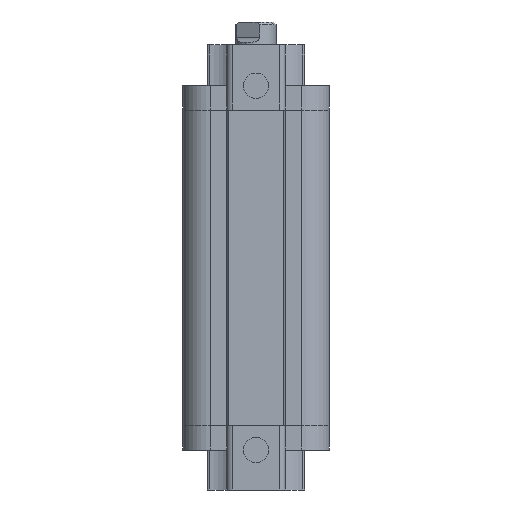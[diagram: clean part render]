
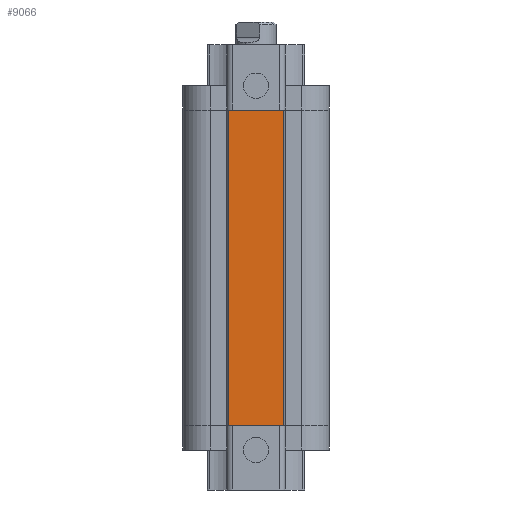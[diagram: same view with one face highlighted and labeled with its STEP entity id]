
A CAD part, front view. The second image highlights one B-rep face of the part: STEP entity #9066.
In plain terms, the highlighted planar face has unit normal (0, -1, 0).
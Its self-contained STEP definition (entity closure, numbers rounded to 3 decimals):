
#149 = LINE ( 'NONE', #6399, #8570 ) ;
#494 = ORIENTED_EDGE ( 'NONE', *, *, #9790, .T. ) ;
#1086 = CARTESIAN_POINT ( 'NONE',  ( 5.5, -15.5, 62.4 ) ) ;
#1727 = ORIENTED_EDGE ( 'NONE', *, *, #9614, .F. ) ;
#1787 = LINE ( 'NONE', #7826, #10180 ) ;
#1832 = VECTOR ( 'NONE', #1900, 1000. ) ;
#1875 = CARTESIAN_POINT ( 'NONE',  ( 5.5, -15.5, 31.2 ) ) ;
#1900 = DIRECTION ( 'NONE',  ( 0., 0., -1. ) ) ;
#2615 = EDGE_LOOP ( 'NONE', ( #8398, #5993, #1727, #494 ) ) ;
#2768 = CARTESIAN_POINT ( 'NONE',  ( -5.5, -15.5, 0. ) ) ;
#4136 = CARTESIAN_POINT ( 'NONE',  ( -5.5, -15.5, 0. ) ) ;
#4257 = PLANE ( 'NONE',  #10369 ) ;
#4259 = DIRECTION ( 'NONE',  ( 0., 1., 0. ) ) ;
#4279 = DIRECTION ( 'NONE',  ( 0., 0., 1. ) ) ;
#5368 = CARTESIAN_POINT ( 'NONE',  ( 5.5, -15.5, 0. ) ) ;
#5993 = ORIENTED_EDGE ( 'NONE', *, *, #9490, .F. ) ;
#6399 = CARTESIAN_POINT ( 'NONE',  ( 0., -15.5, 62.4 ) ) ;
#6411 = DIRECTION ( 'NONE',  ( 1., 0., 0. ) ) ;
#6815 = CARTESIAN_POINT ( 'NONE',  ( -5.5, -15.5, 31.2 ) ) ;
#6828 = DIRECTION ( 'NONE',  ( 0., 0., 1. ) ) ;
#7510 = VECTOR ( 'NONE', #6828, 1000. ) ;
#7765 = LINE ( 'NONE', #6815, #7510 ) ;
#7826 = CARTESIAN_POINT ( 'NONE',  ( 0., -15.5, 0. ) ) ;
#7832 = EDGE_CURVE ( 'NONE', #8532, #9298, #10763, .T. ) ;
#7834 = DIRECTION ( 'NONE',  ( 1., 0., 0. ) ) ;
#8045 = CARTESIAN_POINT ( 'NONE',  ( -5.5, -15.5, 62.4 ) ) ;
#8356 = VERTEX_POINT ( 'NONE', #2768 ) ;
#8398 = ORIENTED_EDGE ( 'NONE', *, *, #7832, .F. ) ;
#8532 = VERTEX_POINT ( 'NONE', #1086 ) ;
#8570 = VECTOR ( 'NONE', #6411, 1000. ) ;
#9066 = ADVANCED_FACE ( 'NONE', ( #10599 ), #4257, .F. ) ;
#9298 = VERTEX_POINT ( 'NONE', #5368 ) ;
#9490 = EDGE_CURVE ( 'NONE', #9819, #8532, #149, .T. ) ;
#9614 = EDGE_CURVE ( 'NONE', #8356, #9819, #7765, .T. ) ;
#9790 = EDGE_CURVE ( 'NONE', #8356, #9298, #1787, .T. ) ;
#9819 = VERTEX_POINT ( 'NONE', #8045 ) ;
#10180 = VECTOR ( 'NONE', #7834, 1000. ) ;
#10369 = AXIS2_PLACEMENT_3D ( 'NONE', #4136, #4259, #4279 ) ;
#10599 = FACE_OUTER_BOUND ( 'NONE', #2615, .T. ) ;
#10763 = LINE ( 'NONE', #1875, #1832 ) ;
